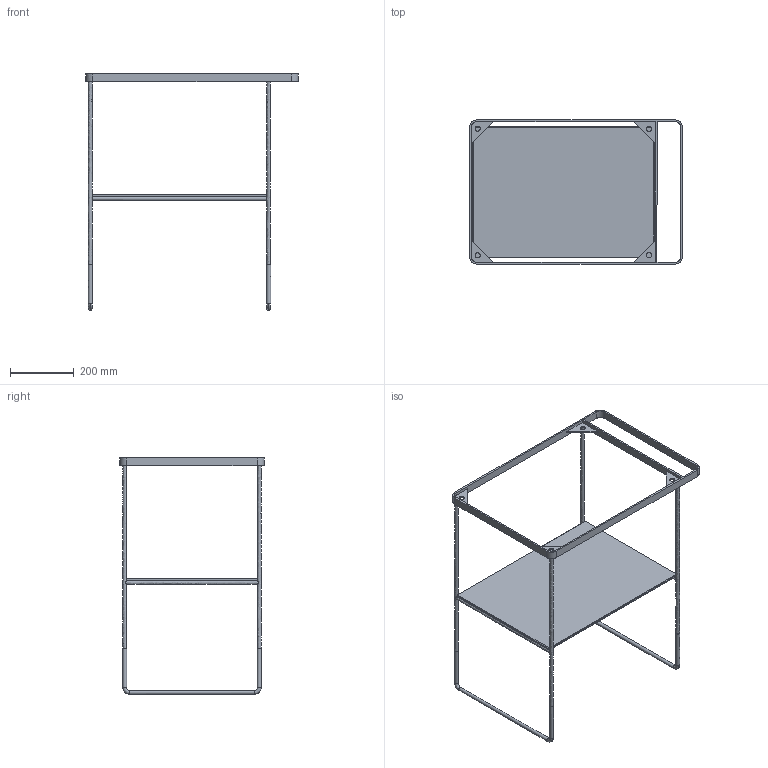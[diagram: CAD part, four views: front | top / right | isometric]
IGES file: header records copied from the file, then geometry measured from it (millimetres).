
Global section: file name: d:\users\matthias.isele\Desktop\DuraSquare\003101\3D\003101.igs; native system: Rhinoceros ( Sep 13 2016 ); preprocessor: Trout Lake IGES 012 Sep 13 2016; date: 220222.093849; units: millimetre
Bounding box: 665.06 x 451.09 x 740.15 mm (x, y, z)
Surface area: 877779.1 mm2 (no closed solid volume)
Topology: 0 solids, 0 shells, 113 faces, 646 edges, 646 vertices
Faces by surface type: bspline 113
